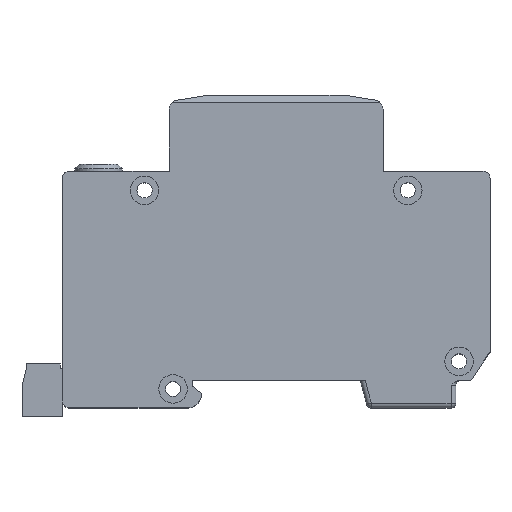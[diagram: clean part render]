
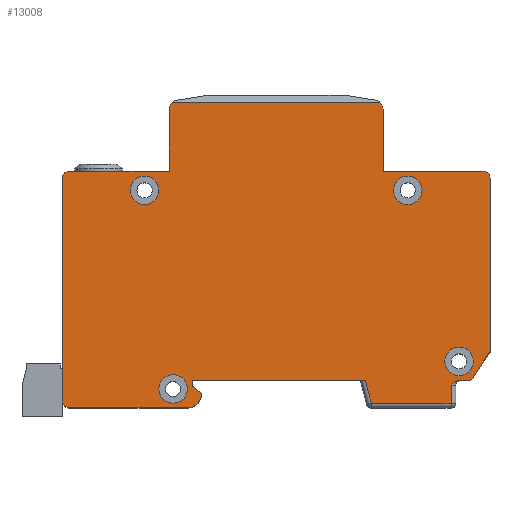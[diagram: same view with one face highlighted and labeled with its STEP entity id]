
A CAD part, top view. The second image highlights one B-rep face of the part: STEP entity #13008.
In plain terms, the highlighted planar face has unit normal (0, 0, 1).
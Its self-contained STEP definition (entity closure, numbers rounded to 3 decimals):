
#156=B_SPLINE_CURVE_WITH_KNOTS('',3,(#21344,#21345,#21346,#21347,#21348,
#21349),.UNSPECIFIED.,.F.,.F.,(4,2,4),(0.506,0.582,
0.7),.UNSPECIFIED.);
#224=FACE_BOUND('',#2085,.T.);
#225=FACE_BOUND('',#2086,.T.);
#226=FACE_BOUND('',#2087,.T.);
#227=FACE_BOUND('',#2088,.T.);
#490=CIRCLE('',#14034,1.5);
#492=CIRCLE('',#14065,1.5);
#494=CIRCLE('',#14071,3.);
#504=CIRCLE('',#14129,1.5);
#523=CIRCLE('',#14165,2.);
#524=CIRCLE('',#14166,2.);
#525=CIRCLE('',#14167,3.);
#526=CIRCLE('',#14168,3.);
#527=CIRCLE('',#14169,3.);
#528=CIRCLE('',#14170,3.);
#1323=FACE_OUTER_BOUND('',#2084,.T.);
#2084=EDGE_LOOP('',(#11390,#11391,#11392,#11393,#11394,#11395,#11396,#11397,
#11398,#11399,#11400,#11401,#11402,#11403,#11404,#11405,#11406,#11407,#11408,
#11409,#11410,#11411,#11412));
#2085=EDGE_LOOP('',(#11413));
#2086=EDGE_LOOP('',(#11414));
#2087=EDGE_LOOP('',(#11415));
#2088=EDGE_LOOP('',(#11416));
#3156=LINE('',#20333,#4638);
#3472=LINE('',#21022,#4954);
#3490=LINE('',#21059,#4972);
#3496=LINE('',#21075,#4978);
#3500=LINE('',#21083,#4982);
#3504=LINE('',#21095,#4986);
#3526=LINE('',#21154,#5008);
#3530=LINE('',#21163,#5012);
#3582=LINE('',#21263,#5064);
#3588=LINE('',#21281,#5070);
#3593=LINE('',#21330,#5075);
#3594=LINE('',#21334,#5076);
#3595=LINE('',#21337,#5077);
#3596=LINE('',#21339,#5078);
#3597=LINE('',#21341,#5079);
#3598=LINE('',#21343,#5080);
#4638=VECTOR('',#16610,10.);
#4954=VECTOR('',#17162,10.);
#4972=VECTOR('',#17202,10.);
#4978=VECTOR('',#17220,10.);
#4982=VECTOR('',#17228,10.);
#4986=VECTOR('',#17240,10.);
#5008=VECTOR('',#17304,10.);
#5012=VECTOR('',#17314,10.);
#5064=VECTOR('',#17410,10.);
#5070=VECTOR('',#17432,10.);
#5075=VECTOR('',#17499,10.);
#5076=VECTOR('',#17502,10.);
#5077=VECTOR('',#17505,10.);
#5078=VECTOR('',#17506,10.);
#5079=VECTOR('',#17507,10.);
#5080=VECTOR('',#17508,10.);
#5911=VERTEX_POINT('',#20330);
#5912=VERTEX_POINT('',#20332);
#6137=VERTEX_POINT('',#20912);
#6167=VERTEX_POINT('',#21020);
#6173=VERTEX_POINT('',#21049);
#6175=VERTEX_POINT('',#21057);
#6177=VERTEX_POINT('',#21065);
#6179=VERTEX_POINT('',#21073);
#6181=VERTEX_POINT('',#21081);
#6185=VERTEX_POINT('',#21093);
#6200=VERTEX_POINT('',#21151);
#6201=VERTEX_POINT('',#21153);
#6203=VERTEX_POINT('',#21161);
#6229=VERTEX_POINT('',#21261);
#6231=VERTEX_POINT('',#21269);
#6233=VERTEX_POINT('',#21279);
#6246=VERTEX_POINT('',#21329);
#6247=VERTEX_POINT('',#21331);
#6248=VERTEX_POINT('',#21333);
#6249=VERTEX_POINT('',#21335);
#6250=VERTEX_POINT('',#21338);
#6251=VERTEX_POINT('',#21340);
#6252=VERTEX_POINT('',#21342);
#6253=VERTEX_POINT('',#21350);
#6254=VERTEX_POINT('',#21352);
#6255=VERTEX_POINT('',#21354);
#6256=VERTEX_POINT('',#21356);
#7509=EDGE_CURVE('',#5912,#5911,#3156,.T.);
#7799=EDGE_CURVE('',#6137,#5911,#490,.T.);
#7855=EDGE_CURVE('',#6137,#6167,#3472,.T.);
#7871=EDGE_CURVE('',#6173,#6167,#492,.T.);
#7875=EDGE_CURVE('',#6173,#6175,#3490,.T.);
#7879=EDGE_CURVE('',#6175,#6177,#494,.T.);
#7883=EDGE_CURVE('',#6177,#6179,#3496,.T.);
#7887=EDGE_CURVE('',#6179,#6181,#3500,.T.);
#7893=EDGE_CURVE('',#6181,#6185,#3504,.T.);
#7922=EDGE_CURVE('',#6200,#6201,#3526,.T.);
#7927=EDGE_CURVE('',#6200,#6203,#3530,.T.);
#7979=EDGE_CURVE('',#6203,#6229,#3582,.T.);
#7983=EDGE_CURVE('',#6231,#6229,#504,.T.);
#7989=EDGE_CURVE('',#6231,#6233,#3588,.T.);
#8010=EDGE_CURVE('',#6233,#6246,#3593,.T.);
#8011=EDGE_CURVE('',#6247,#6246,#523,.T.);
#8012=EDGE_CURVE('',#6248,#6247,#3594,.T.);
#8013=EDGE_CURVE('',#6249,#6248,#524,.T.);
#8014=EDGE_CURVE('',#6249,#5912,#3595,.T.);
#8015=EDGE_CURVE('',#6250,#6185,#3596,.T.);
#8016=EDGE_CURVE('',#6251,#6250,#3597,.T.);
#8017=EDGE_CURVE('',#6252,#6251,#3598,.T.);
#8018=EDGE_CURVE('',#6201,#6252,#156,.T.);
#8019=EDGE_CURVE('',#6253,#6253,#525,.T.);
#8020=EDGE_CURVE('',#6254,#6254,#526,.T.);
#8021=EDGE_CURVE('',#6255,#6255,#527,.T.);
#8022=EDGE_CURVE('',#6256,#6256,#528,.T.);
#11390=ORIENTED_EDGE('',*,*,#7983,.F.);
#11391=ORIENTED_EDGE('',*,*,#7989,.T.);
#11392=ORIENTED_EDGE('',*,*,#8010,.T.);
#11393=ORIENTED_EDGE('',*,*,#8011,.F.);
#11394=ORIENTED_EDGE('',*,*,#8012,.F.);
#11395=ORIENTED_EDGE('',*,*,#8013,.F.);
#11396=ORIENTED_EDGE('',*,*,#8014,.T.);
#11397=ORIENTED_EDGE('',*,*,#7509,.T.);
#11398=ORIENTED_EDGE('',*,*,#7799,.F.);
#11399=ORIENTED_EDGE('',*,*,#7855,.T.);
#11400=ORIENTED_EDGE('',*,*,#7871,.F.);
#11401=ORIENTED_EDGE('',*,*,#7875,.T.);
#11402=ORIENTED_EDGE('',*,*,#7879,.T.);
#11403=ORIENTED_EDGE('',*,*,#7883,.T.);
#11404=ORIENTED_EDGE('',*,*,#7887,.T.);
#11405=ORIENTED_EDGE('',*,*,#7893,.T.);
#11406=ORIENTED_EDGE('',*,*,#8015,.F.);
#11407=ORIENTED_EDGE('',*,*,#8016,.F.);
#11408=ORIENTED_EDGE('',*,*,#8017,.F.);
#11409=ORIENTED_EDGE('',*,*,#8018,.F.);
#11410=ORIENTED_EDGE('',*,*,#7922,.F.);
#11411=ORIENTED_EDGE('',*,*,#7927,.T.);
#11412=ORIENTED_EDGE('',*,*,#7979,.T.);
#11413=ORIENTED_EDGE('',*,*,#8019,.T.);
#11414=ORIENTED_EDGE('',*,*,#8020,.T.);
#11415=ORIENTED_EDGE('',*,*,#8021,.T.);
#11416=ORIENTED_EDGE('',*,*,#8022,.T.);
#12346=PLANE('',#14164);
#13008=ADVANCED_FACE('',(#1323,#224,#225,#226,#227),#12346,.T.);
#14034=AXIS2_PLACEMENT_3D('',#20914,#17061,#17062);
#14065=AXIS2_PLACEMENT_3D('',#21051,#17193,#17194);
#14071=AXIS2_PLACEMENT_3D('',#21067,#17211,#17212);
#14129=AXIS2_PLACEMENT_3D('',#21271,#17419,#17420);
#14164=AXIS2_PLACEMENT_3D('',#21328,#17497,#17498);
#14165=AXIS2_PLACEMENT_3D('',#21332,#17500,#17501);
#14166=AXIS2_PLACEMENT_3D('',#21336,#17503,#17504);
#14167=AXIS2_PLACEMENT_3D('',#21351,#17509,#17510);
#14168=AXIS2_PLACEMENT_3D('',#21353,#17511,#17512);
#14169=AXIS2_PLACEMENT_3D('',#21355,#17513,#17514);
#14170=AXIS2_PLACEMENT_3D('',#21357,#17515,#17516);
#16610=DIRECTION('',(-1.,0.,0.));
#17061=DIRECTION('center_axis',(0.,0.,-1.));
#17062=DIRECTION('ref_axis',(-0.707,0.707,0.));
#17162=DIRECTION('',(0.,-1.,0.));
#17193=DIRECTION('center_axis',(0.,0.,-1.));
#17194=DIRECTION('ref_axis',(-0.707,-0.707,0.));
#17202=DIRECTION('',(1.,0.,0.));
#17211=DIRECTION('center_axis',(0.,0.,1.));
#17212=DIRECTION('ref_axis',(0.,-1.,0.));
#17220=DIRECTION('',(-0.781,0.625,0.));
#17228=DIRECTION('',(0.,1.,0.));
#17240=DIRECTION('',(1.,0.,0.));
#17304=DIRECTION('',(-1.,0.,0.));
#17314=DIRECTION('',(0.555,0.832,0.));
#17410=DIRECTION('',(0.,1.,0.));
#17419=DIRECTION('center_axis',(0.,0.,-1.));
#17420=DIRECTION('ref_axis',(0.707,0.707,0.));
#17432=DIRECTION('',(-1.,0.,0.));
#17497=DIRECTION('center_axis',(0.,0.,1.));
#17498=DIRECTION('ref_axis',(1.,0.,0.));
#17499=DIRECTION('',(0.,1.,0.));
#17500=DIRECTION('center_axis',(0.,0.,-1.));
#17501=DIRECTION('ref_axis',(0.762,0.648,0.));
#17502=DIRECTION('',(1.,0.,0.));
#17503=DIRECTION('center_axis',(0.,0.,-1.));
#17504=DIRECTION('ref_axis',(-0.762,0.648,0.));
#17505=DIRECTION('',(0.,-1.,0.));
#17506=DIRECTION('',(-0.259,0.966,0.));
#17507=DIRECTION('',(-1.,0.,0.));
#17508=DIRECTION('',(0.,-1.,0.));
#17509=DIRECTION('center_axis',(0.,0.,-1.));
#17510=DIRECTION('ref_axis',(1.,0.,0.));
#17511=DIRECTION('center_axis',(0.,0.,-1.));
#17512=DIRECTION('ref_axis',(1.,0.,0.));
#17513=DIRECTION('center_axis',(0.,0.,-1.));
#17514=DIRECTION('ref_axis',(1.,0.,0.));
#17515=DIRECTION('center_axis',(0.,0.,-1.));
#17516=DIRECTION('ref_axis',(1.,0.,0.));
#20330=CARTESIAN_POINT('',(-43.5,14.,17.5));
#20332=CARTESIAN_POINT('',(-22.5,14.,17.5));
#20333=CARTESIAN_POINT('',(-22.5,14.,17.5));
#20912=CARTESIAN_POINT('',(-45.,12.5,17.5));
#20914=CARTESIAN_POINT('Origin',(-43.5,12.5,17.5));
#21020=CARTESIAN_POINT('',(-45.,-34.3,17.5));
#21022=CARTESIAN_POINT('',(-45.,14.,17.5));
#21049=CARTESIAN_POINT('',(-43.5,-35.8,17.5));
#21051=CARTESIAN_POINT('Origin',(-43.5,-34.3,17.5));
#21057=CARTESIAN_POINT('',(-18.7,-35.8,17.5));
#21059=CARTESIAN_POINT('',(-45.,-35.8,17.5));
#21065=CARTESIAN_POINT('',(-15.7,-32.8,17.5));
#21067=CARTESIAN_POINT('Origin',(-18.7,-32.8,17.5));
#21073=CARTESIAN_POINT('',(-17.7,-31.2,17.5));
#21075=CARTESIAN_POINT('',(-15.7,-32.8,17.5));
#21081=CARTESIAN_POINT('',(-17.7,-30.,17.5));
#21083=CARTESIAN_POINT('',(-17.7,-31.2,17.5));
#21093=CARTESIAN_POINT('',(18.735,-30.,17.5));
#21095=CARTESIAN_POINT('',(-17.7,-30.,17.5));
#21151=CARTESIAN_POINT('',(41.,-30.,17.5));
#21153=CARTESIAN_POINT('',(38.532,-30.,17.5));
#21154=CARTESIAN_POINT('',(18.592,-30.,17.5));
#21161=CARTESIAN_POINT('',(45.,-24.,17.5));
#21163=CARTESIAN_POINT('',(41.,-30.,17.5));
#21261=CARTESIAN_POINT('',(45.,12.5,17.5));
#21263=CARTESIAN_POINT('',(45.,-24.,17.5));
#21269=CARTESIAN_POINT('',(43.5,14.,17.5));
#21271=CARTESIAN_POINT('Origin',(43.5,12.5,17.5));
#21279=CARTESIAN_POINT('',(22.5,14.,17.5));
#21281=CARTESIAN_POINT('',(45.,14.,17.5));
#21328=CARTESIAN_POINT('Origin',(-0.615,-5.122,17.5));
#21329=CARTESIAN_POINT('',(22.5,26.999,17.5));
#21330=CARTESIAN_POINT('',(22.5,14.,17.5));
#21331=CARTESIAN_POINT('',(21.821,28.5,17.5));
#21332=CARTESIAN_POINT('Origin',(20.5,26.999,17.5));
#21333=CARTESIAN_POINT('',(-21.821,28.5,17.5));
#21334=CARTESIAN_POINT('',(10.942,28.5,17.5));
#21335=CARTESIAN_POINT('',(-22.5,26.999,17.5));
#21336=CARTESIAN_POINT('Origin',(-20.5,26.999,17.5));
#21337=CARTESIAN_POINT('',(-22.5,30.,17.5));
#21338=CARTESIAN_POINT('',(20.021,-34.8,17.5));
#21339=CARTESIAN_POINT('',(14.943,-15.846,17.5));
#21340=CARTESIAN_POINT('',(36.8,-34.8,17.5));
#21341=CARTESIAN_POINT('',(9.319,-34.8,17.5));
#21342=CARTESIAN_POINT('',(36.8,-31.,17.5));
#21343=CARTESIAN_POINT('',(36.8,-20.461,17.5));
#21344=CARTESIAN_POINT('Ctrl Pts',(38.532,-30.,17.5));
#21345=CARTESIAN_POINT('Ctrl Pts',(38.277,-30.,17.5));
#21346=CARTESIAN_POINT('Ctrl Pts',(37.985,-30.09,17.5));
#21347=CARTESIAN_POINT('Ctrl Pts',(37.415,-30.396,17.5));
#21348=CARTESIAN_POINT('Ctrl Pts',(37.077,-30.723,17.5));
#21349=CARTESIAN_POINT('Ctrl Pts',(36.8,-31.,17.5));
#21350=CARTESIAN_POINT('',(35.5,-26.,17.5));
#21351=CARTESIAN_POINT('Origin',(38.5,-26.,17.5));
#21352=CARTESIAN_POINT('',(24.7,10.,17.5));
#21353=CARTESIAN_POINT('Origin',(27.7,10.,17.5));
#21354=CARTESIAN_POINT('',(-30.7,10.,17.5));
#21355=CARTESIAN_POINT('Origin',(-27.7,10.,17.5));
#21356=CARTESIAN_POINT('',(-24.7,-31.8,17.5));
#21357=CARTESIAN_POINT('Origin',(-21.7,-31.8,17.5));
